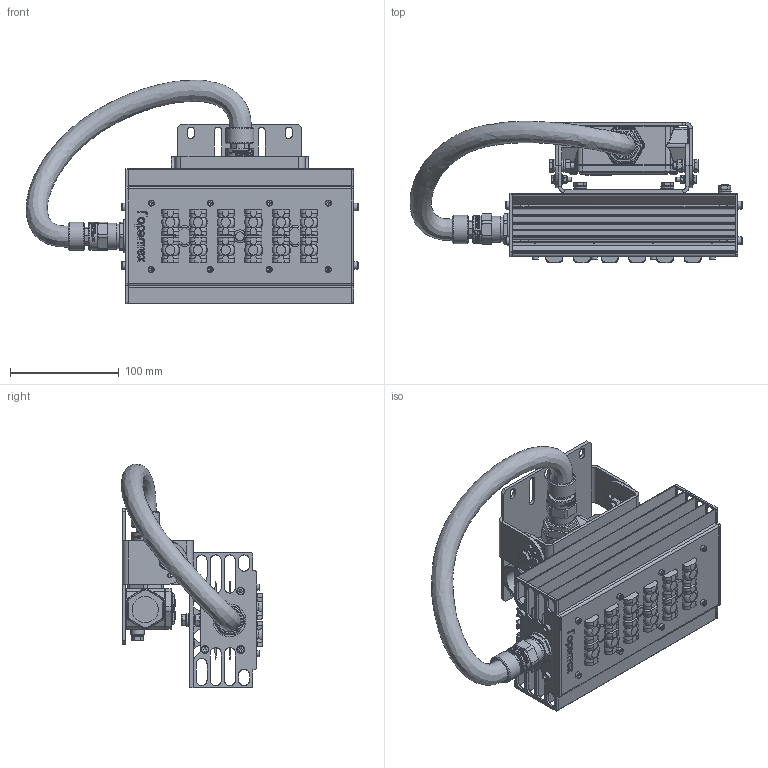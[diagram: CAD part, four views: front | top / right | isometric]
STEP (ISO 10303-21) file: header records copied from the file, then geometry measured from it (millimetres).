
FILE_DESCRIPTION (( 'STEP AP203' ), '1' );
FILE_NAME ('ﾑﾃﾓ06-3300ﾑ_220AC_ﾏ.stp', '2020-11-13T06:08:18', ( '' ), ( '' ), 'SwSTEP 2.0', 'SolidWorks 2018', '' );
FILE_SCHEMA (( 'CONFIG_CONTROL_DESIGN' ));
Products named in the file (1): ﾑﾃﾓ06-3300ﾑ_220AC_ﾏ
Bounding box: 304.73 x 129.46 x 205.31 mm (x, y, z)
Volume: 1076851.6 mm3; surface area: 460537.9 mm2
Topology: 1 solids, 1 shells, 4692 faces, 12413 edges, 8122 vertices
Faces by surface type: plane 2237, bspline 1285, cylinder 821, cone 243, torus 106
Full cylindrical faces by diameter (mm): 2.5 x8, 3 x4, 3.85 x6, 4 x12, 4.3 x22, 4.5 x10, 4.917 x2, 5.459 x5, 5.5 x8, 5.9 x2, 6 x12, 6.3 x2, 6.4 x8, 7 x8, 7.3 x2, 7.5 x1, 7.9 x1, 8.7 x5, 9 x4, 12 x12, 14.4 x2, 16 x4, 16.2 x2, 17.5 x2, 17.8 x2, 18.376 x1, 19 x2, 19.5 x2, 20 x3, 22 x4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
Entity records: 359011 total; most frequent: CARTESIAN_POINT 272549, ORIENTED_EDGE 23942, EDGE_CURVE 11971, B_SPLINE_CURVE_WITH_KNOTS 11920, VERTEX_POINT 7978, DIRECTION 6824, EDGE_LOOP 5501, FACE_OUTER_BOUND 4895
